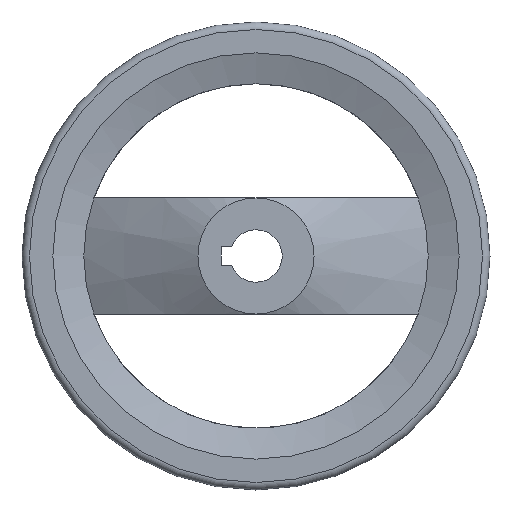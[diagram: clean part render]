
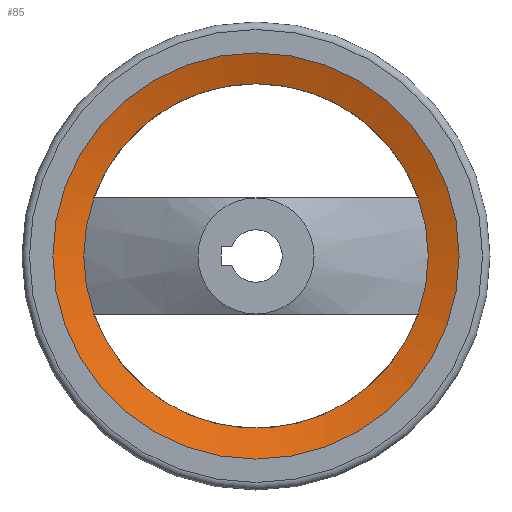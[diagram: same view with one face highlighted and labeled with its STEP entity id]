
A CAD part, left-side view. The second image highlights one B-rep face of the part: STEP entity #85.
In plain terms, the highlighted conical face has half-angle 70.918 degrees and reference radius 46 mm.
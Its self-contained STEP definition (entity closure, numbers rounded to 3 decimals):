
#85 = ADVANCED_FACE( '', ( #122, #123 ), #124, .F. );
#122 = FACE_OUTER_BOUND( '', #178, .T. );
#123 = FACE_BOUND( '', #179, .T. );
#124 = CONICAL_SURFACE( '', #180, 46., 1.238 );
#178 = EDGE_LOOP( '', ( #282 ) );
#179 = EDGE_LOOP( '', ( #283, #284, #285, #286 ) );
#180 = AXIS2_PLACEMENT_3D( '', #287, #288, #289 );
#282 = ORIENTED_EDGE( '', *, *, #388, .T. );
#283 = ORIENTED_EDGE( '', *, *, #389, .F. );
#284 = ORIENTED_EDGE( '', *, *, #390, .T. );
#285 = ORIENTED_EDGE( '', *, *, #391, .F. );
#286 = ORIENTED_EDGE( '', *, *, #392, .T. );
#287 = CARTESIAN_POINT( '', ( 20.854, 0., 0. ) );
#288 = DIRECTION( '', ( -1., 0., 0. ) );
#289 = DIRECTION( '', ( 0., 0., 1. ) );
#388 = EDGE_CURVE( '', #450, #450, #451, .T. );
#389 = EDGE_CURVE( '', #452, #406, #453, .T. );
#390 = EDGE_CURVE( '', #452, #454, #455, .F. );
#391 = EDGE_CURVE( '', #412, #454, #456, .T. );
#392 = EDGE_CURVE( '', #412, #406, #457, .F. );
#406 = VERTEX_POINT( '', #478 );
#412 = VERTEX_POINT( '', #519 );
#450 = VERTEX_POINT( '', #621 );
#451 = CIRCLE( '', #622, 54.25 );
#452 = VERTEX_POINT( '', #623 );
#453 = CIRCLE( '', #624, 46. );
#454 = VERTEX_POINT( '', #625 );
#455 = CIRCLE( '', #626, 46. );
#456 = CIRCLE( '', #627, 46. );
#457 = CIRCLE( '', #628, 46. );
#478 = CARTESIAN_POINT( '', ( 20.854, -43.31, 15.5 ) );
#519 = CARTESIAN_POINT( '', ( 20.854, 43.31, 15.5 ) );
#621 = CARTESIAN_POINT( '', ( 18., 0., 54.25 ) );
#622 = AXIS2_PLACEMENT_3D( '', #742, #743, #744 );
#623 = CARTESIAN_POINT( '', ( 20.854, -43.31, -15.5 ) );
#624 = AXIS2_PLACEMENT_3D( '', #745, #746, #747 );
#625 = CARTESIAN_POINT( '', ( 20.854, 43.31, -15.5 ) );
#626 = AXIS2_PLACEMENT_3D( '', #748, #749, #750 );
#627 = AXIS2_PLACEMENT_3D( '', #751, #752, #753 );
#628 = AXIS2_PLACEMENT_3D( '', #754, #755, #756 );
#742 = CARTESIAN_POINT( '', ( 18., 0., 0. ) );
#743 = DIRECTION( '', ( -1., 0., 0. ) );
#744 = DIRECTION( '', ( 0., 0., 1. ) );
#745 = CARTESIAN_POINT( '', ( 20.854, 0., 0. ) );
#746 = DIRECTION( '', ( -1., 0., 0. ) );
#747 = DIRECTION( '', ( 0., 0., 1. ) );
#748 = CARTESIAN_POINT( '', ( 20.854, 0., 0. ) );
#749 = DIRECTION( '', ( -1., 0., 0. ) );
#750 = DIRECTION( '', ( 0., 0., 1. ) );
#751 = CARTESIAN_POINT( '', ( 20.854, 0., 0. ) );
#752 = DIRECTION( '', ( -1., 0., 0. ) );
#753 = DIRECTION( '', ( 0., 0., 1. ) );
#754 = CARTESIAN_POINT( '', ( 20.854, 0., 0. ) );
#755 = DIRECTION( '', ( -1., 0., 0. ) );
#756 = DIRECTION( '', ( 0., 0., 1. ) );
